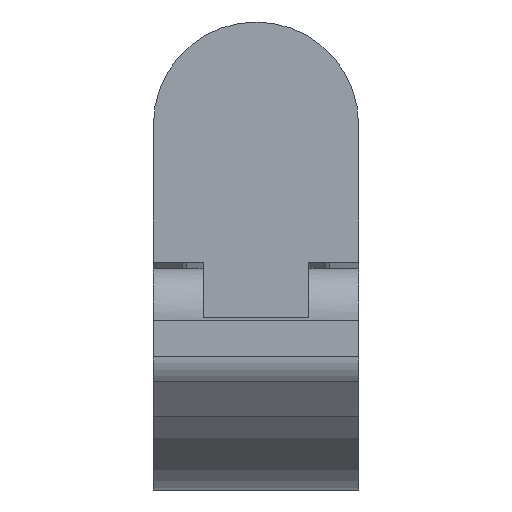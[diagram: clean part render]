
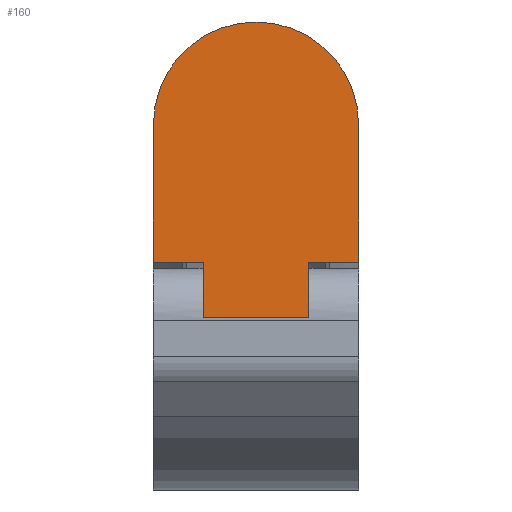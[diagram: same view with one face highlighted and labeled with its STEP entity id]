
A CAD part, left-side view. The second image highlights one B-rep face of the part: STEP entity #160.
In plain terms, the highlighted planar face has unit normal (-1, 0, 0).
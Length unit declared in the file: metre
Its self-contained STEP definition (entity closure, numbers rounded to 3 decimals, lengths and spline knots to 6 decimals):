
#160=ADVANCED_FACE('',(#446),#447,.T.);
#446=FACE_OUTER_BOUND('',#847,.T.);
#447=PLANE('',#848);
#847=EDGE_LOOP('',(#1432,#1433,#1434,#1435,#1436,#1437,#1438,#1439));
#848=AXIS2_PLACEMENT_3D('',#1440,#1441,#1442);
#1432=ORIENTED_EDGE('',*,*,#2105,.F.);
#1433=ORIENTED_EDGE('',*,*,#2106,.T.);
#1434=ORIENTED_EDGE('',*,*,#2107,.T.);
#1435=ORIENTED_EDGE('',*,*,#2108,.F.);
#1436=ORIENTED_EDGE('',*,*,#2109,.F.);
#1437=ORIENTED_EDGE('',*,*,#2110,.F.);
#1438=ORIENTED_EDGE('',*,*,#2101,.T.);
#1439=ORIENTED_EDGE('',*,*,#2111,.T.);
#1440=CARTESIAN_POINT('',(-0.036904,0.136,-0.01425));
#1441=DIRECTION('',(-1.0,0.,0.));
#1442=DIRECTION('',(0.,0.,1.0));
#2101=EDGE_CURVE('',#2246,#2244,#2247,.T.);
#2105=EDGE_CURVE('',#2252,#2253,#2254,.T.);
#2106=EDGE_CURVE('',#2252,#2255,#2256,.T.);
#2107=EDGE_CURVE('',#2255,#2257,#2258,.T.);
#2108=EDGE_CURVE('',#2259,#2257,#2260,.T.);
#2109=EDGE_CURVE('',#2261,#2259,#2262,.T.);
#2110=EDGE_CURVE('',#2246,#2261,#2263,.T.);
#2111=EDGE_CURVE('',#2244,#2253,#2264,.T.);
#2244=VERTEX_POINT('',#2433);
#2246=VERTEX_POINT('',#2436);
#2247=LINE('',#2437,#2438);
#2252=VERTEX_POINT('',#2445);
#2253=VERTEX_POINT('',#2446);
#2254=LINE('',#2447,#2448);
#2255=VERTEX_POINT('',#2449);
#2256=LINE('',#2450,#2451);
#2257=VERTEX_POINT('',#2452);
#2258=LINE('',#2453,#2454);
#2259=VERTEX_POINT('',#2455);
#2260=LINE('',#2456,#2457);
#2261=VERTEX_POINT('',#2458);
#2262=LINE('',#2459,#2460);
#2263=CIRCLE('',#2461,0.0125);
#2264=LINE('',#2462,#2463);
#2433=CARTESIAN_POINT('',(-0.036904,0.136,-0.01675));
#2436=CARTESIAN_POINT('',(-0.036904,0.136,0.));
#2437=CARTESIAN_POINT('',(-0.036904,0.136,-0.01425));
#2438=VECTOR('',#2706,1.0);
#2445=CARTESIAN_POINT('',(-0.036904,0.12995,-0.0235));
#2446=CARTESIAN_POINT('',(-0.036904,0.12995,-0.01675));
#2447=CARTESIAN_POINT('',(-0.036904,0.12995,-0.02995));
#2448=VECTOR('',#2709,1.0);
#2449=CARTESIAN_POINT('',(-0.036904,0.11705,-0.0235));
#2450=CARTESIAN_POINT('',(-0.036904,0.136,-0.0235));
#2451=VECTOR('',#2710,1.0);
#2452=CARTESIAN_POINT('',(-0.036904,0.11705,-0.01675));
#2453=CARTESIAN_POINT('',(-0.036904,0.11705,-0.01425));
#2454=VECTOR('',#2711,1.0);
#2455=CARTESIAN_POINT('',(-0.036904,0.111,-0.01675));
#2456=CARTESIAN_POINT('',(-0.036904,0.136,-0.01675));
#2457=VECTOR('',#2712,1.0);
#2458=CARTESIAN_POINT('',(-0.036904,0.111,0.));
#2459=CARTESIAN_POINT('',(-0.036904,0.111,-0.01425));
#2460=VECTOR('',#2713,1.0);
#2461=AXIS2_PLACEMENT_3D('',#2714,#2715,#2716);
#2462=CARTESIAN_POINT('',(-0.036904,0.136,-0.01675));
#2463=VECTOR('',#2717,1.0);
#2706=DIRECTION('',(0.,0.,-1.0));
#2709=DIRECTION('',(0.,0.0,1.0));
#2710=DIRECTION('',(0.,-1.0,0.));
#2711=DIRECTION('',(0.,0.0,1.0));
#2712=DIRECTION('',(0.,1.0,0.));
#2713=DIRECTION('',(0.,0.,-1.0));
#2714=CARTESIAN_POINT('',(-0.036904,0.1235,0.0));
#2715=DIRECTION('',(1.0,0.0,-0.0));
#2716=DIRECTION('',(0.0,0.0,1.0));
#2717=DIRECTION('',(0.,-1.0,0.));
